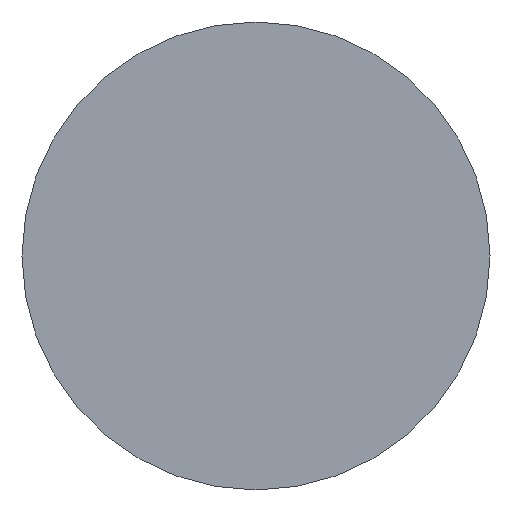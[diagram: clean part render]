
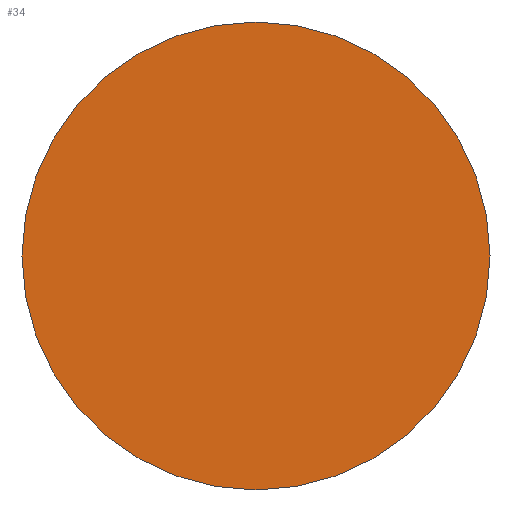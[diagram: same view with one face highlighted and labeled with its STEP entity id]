
A CAD part, top view. The second image highlights one B-rep face of the part: STEP entity #34.
In plain terms, the highlighted planar face has unit normal (0, 0, 1).
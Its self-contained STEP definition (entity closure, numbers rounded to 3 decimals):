
#34=ADVANCED_FACE('',(#71),#72,.F.);
#71=FACE_OUTER_BOUND('',#116,.T.);
#72=PLANE('',#117);
#116=EDGE_LOOP('',(#155));
#117=AXIS2_PLACEMENT_3D('',#156,#157,#158);
#155=ORIENTED_EDGE('',*,*,#213,.F.);
#156=CARTESIAN_POINT('',(0.0,0.0,0.0));
#157=DIRECTION('',(-0.0,0.,-1.0));
#158=DIRECTION('',(0.0,1.0,0.));
#213=EDGE_CURVE('',#232,#232,#233,.T.);
#232=VERTEX_POINT('',#260);
#233=CIRCLE('',#261,26.);
#260=CARTESIAN_POINT('',(0.0,26.,0.));
#261=AXIS2_PLACEMENT_3D('',#287,#288,#289);
#287=CARTESIAN_POINT('',(0.0,0.0,0.0));
#288=DIRECTION('',(-0.0,0.,-1.0));
#289=DIRECTION('',(0.0,1.0,0.));
